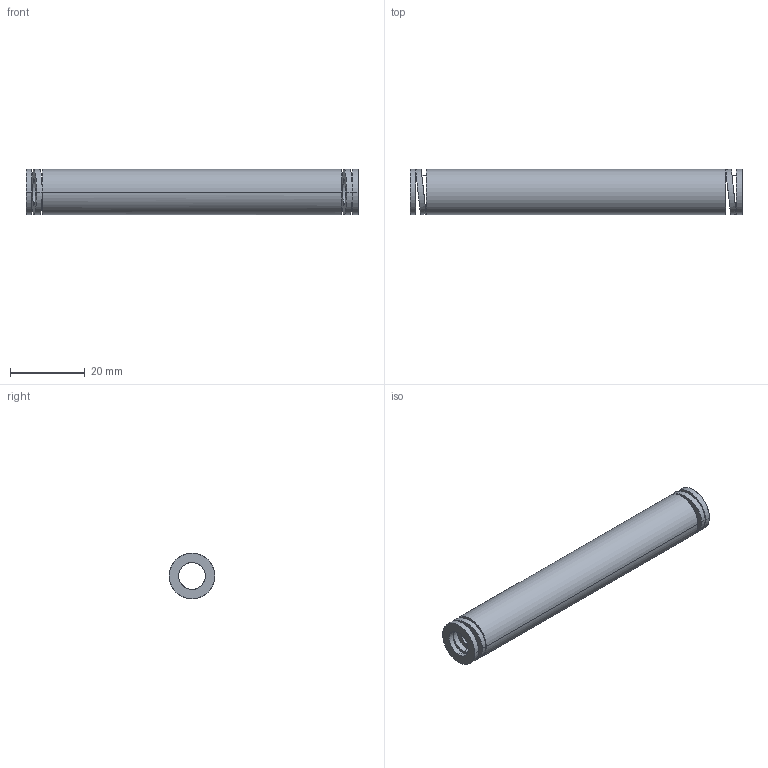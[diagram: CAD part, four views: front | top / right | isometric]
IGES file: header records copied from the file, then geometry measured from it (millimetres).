
Start section: START RECORD GO HERE.
Global section: file name: 392-B13-089.igs; native system: DASSAULT SYSTEMES CATIA V5 R20 - www.3ds.com; preprocessor: CATIA Version 5 Release 20 ; author: Utente; organization: NB04-ASUS; date: 20210812.144404; units: millimetre
Bounding box: 89 x 12.29 x 12.2 mm (x, y, z)
Surface area: 6020.4 mm2 (no closed solid volume)
Topology: 0 solids, 0 shells, 38 faces, 184 edges, 184 vertices
Faces by surface type: revolution 28, plane 10
